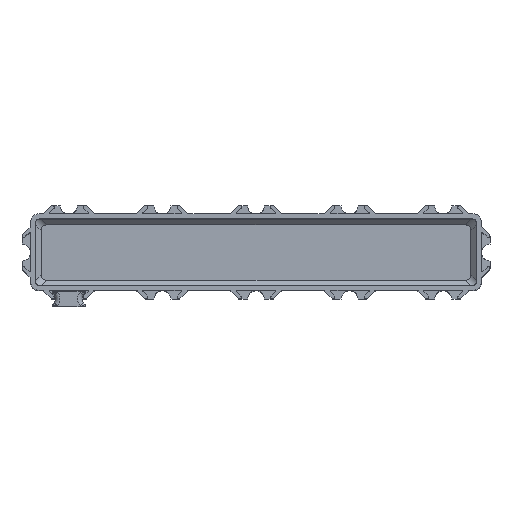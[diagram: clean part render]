
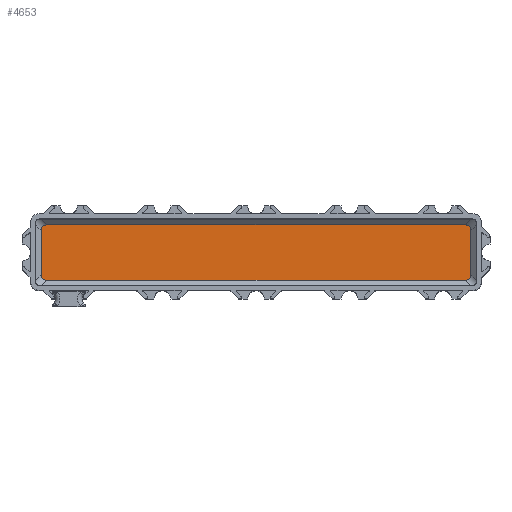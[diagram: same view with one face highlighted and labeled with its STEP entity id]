
A CAD part, top view. The second image highlights one B-rep face of the part: STEP entity #4653.
In plain terms, the highlighted planar face has unit normal (0, 0, 1).
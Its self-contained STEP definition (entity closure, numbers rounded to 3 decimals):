
#376=LINE('',#7680,#788);
#382=LINE('',#7709,#794);
#393=LINE('',#7764,#805);
#395=LINE('',#7767,#807);
#788=VECTOR('',#6307,10.);
#794=VECTOR('',#6327,10.);
#805=VECTOR('',#6364,10.);
#807=VECTOR('',#6368,10.);
#964=PLANE('',#5120);
#1171=FACE_OUTER_BOUND('',#1407,.T.);
#1407=EDGE_LOOP('',(#3906,#3907,#3908,#3909,#3910,#3911,#3912,#3913));
#1506=ELLIPSE('',#5094,3.118,1.8);
#1510=ELLIPSE('',#5102,3.118,1.8);
#1513=ELLIPSE('',#5110,3.118,1.8);
#1515=ELLIPSE('',#5114,3.118,1.8);
#2058=VERTEX_POINT('',#7654);
#2059=VERTEX_POINT('',#7655);
#2064=VERTEX_POINT('',#7679);
#2067=VERTEX_POINT('',#7689);
#2070=VERTEX_POINT('',#7708);
#2074=VERTEX_POINT('',#7731);
#2078=VERTEX_POINT('',#7752);
#2079=VERTEX_POINT('',#7753);
#2668=EDGE_CURVE('',#2058,#2059,#1506,.T.);
#2676=EDGE_CURVE('',#2064,#2058,#376,.T.);
#2681=EDGE_CURVE('',#2067,#2064,#1510,.T.);
#2686=EDGE_CURVE('',#2070,#2067,#382,.T.);
#2693=EDGE_CURVE('',#2074,#2070,#1513,.T.);
#2699=EDGE_CURVE('',#2078,#2079,#1515,.T.);
#2705=EDGE_CURVE('',#2079,#2074,#393,.T.);
#2707=EDGE_CURVE('',#2059,#2078,#395,.T.);
#3906=ORIENTED_EDGE('',*,*,#2668,.T.);
#3907=ORIENTED_EDGE('',*,*,#2707,.T.);
#3908=ORIENTED_EDGE('',*,*,#2699,.T.);
#3909=ORIENTED_EDGE('',*,*,#2705,.T.);
#3910=ORIENTED_EDGE('',*,*,#2693,.T.);
#3911=ORIENTED_EDGE('',*,*,#2686,.T.);
#3912=ORIENTED_EDGE('',*,*,#2681,.T.);
#3913=ORIENTED_EDGE('',*,*,#2676,.T.);
#4653=ADVANCED_FACE('',(#1171),#964,.F.);
#5094=AXIS2_PLACEMENT_3D('',#7656,#6293,#6294);
#5102=AXIS2_PLACEMENT_3D('',#7690,#6317,#6318);
#5110=AXIS2_PLACEMENT_3D('',#7732,#6340,#6341);
#5114=AXIS2_PLACEMENT_3D('',#7754,#6351,#6352);
#5120=AXIS2_PLACEMENT_3D('',#7768,#6369,#6370);
#6293=DIRECTION('center_axis',(0.,0.,1.));
#6294=DIRECTION('ref_axis',(-0.707,0.707,0.));
#6307=DIRECTION('',(-1.,0.,0.));
#6317=DIRECTION('center_axis',(0.,0.,1.));
#6318=DIRECTION('ref_axis',(0.707,0.707,0.));
#6327=DIRECTION('',(0.,1.,0.));
#6340=DIRECTION('center_axis',(0.,0.,1.));
#6341=DIRECTION('ref_axis',(0.707,-0.707,0.));
#6351=DIRECTION('center_axis',(0.,0.,1.));
#6352=DIRECTION('ref_axis',(-0.707,-0.707,0.));
#6364=DIRECTION('',(1.,0.,0.));
#6368=DIRECTION('',(0.,-1.,0.));
#6369=DIRECTION('center_axis',(0.,0.,-1.));
#6370=DIRECTION('ref_axis',(-1.,0.,0.));
#7654=CARTESIAN_POINT('',(5.77,17.503,-60.));
#7655=CARTESIAN_POINT('',(4.497,16.23,-60.));
#7656=CARTESIAN_POINT('Origin',(7.043,14.957,-60.));
#7679=CARTESIAN_POINT('',(104.23,17.503,-60.));
#7680=CARTESIAN_POINT('',(41.75,17.503,-60.));
#7689=CARTESIAN_POINT('',(105.503,16.23,-60.));
#7690=CARTESIAN_POINT('Origin',(102.957,14.957,-60.));
#7708=CARTESIAN_POINT('',(105.503,5.77,-60.));
#7709=CARTESIAN_POINT('',(105.503,13.25,-60.));
#7731=CARTESIAN_POINT('',(104.23,4.497,-60.));
#7732=CARTESIAN_POINT('Origin',(102.957,7.043,-60.));
#7752=CARTESIAN_POINT('',(4.497,5.77,-60.));
#7753=CARTESIAN_POINT('',(5.77,4.497,-60.));
#7754=CARTESIAN_POINT('Origin',(7.043,7.043,-60.));
#7764=CARTESIAN_POINT('',(68.25,4.497,-60.));
#7767=CARTESIAN_POINT('',(4.497,8.75,-60.));
#7768=CARTESIAN_POINT('Origin',(55.,11.,-60.));
